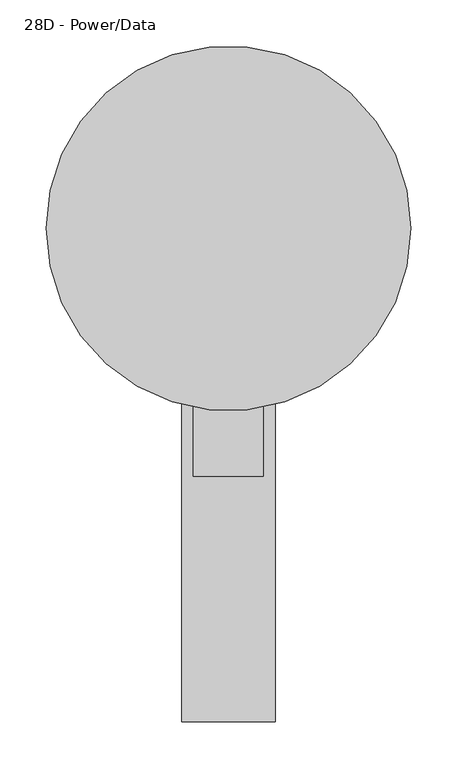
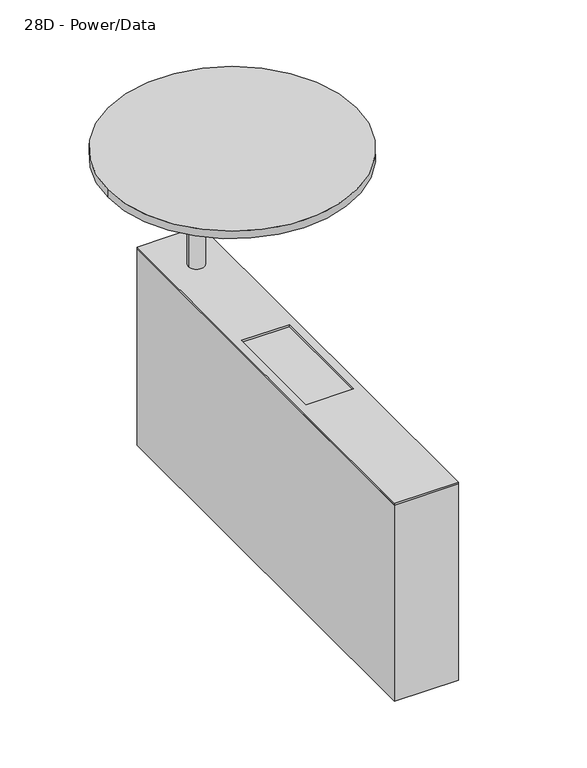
"""IFC4 building model written with IfcOpenShell, lengths in millimetres: furniture geometry, Coalesse_AM_Table_Occasional_Await_Connector : 28D - Power/Data."""

from ifc_helpers import new_model, si_unit, point, frame, frame_2d, origin, place, context, project, spatial, polyline, circle_curve, trimmed, segment, composite_curve, outline, extrude, source, transform, mapped, element, save
from ifc_brep_helpers import plane_surface, cylinder_surface, advanced_brep


def furniture_28d_power_data_fb55835c(model_context):
    return source(origin(), model_context, "Body", "SolidModel", [
        extrude(outline(composite_curve([segment(trimmed(circle_curve(frame_2d((-663.917922, 218.9143355)), 198.12), [point((-862.037922, 218.9143355))], [point((-465.797922, 218.9143355))], False, "CARTESIAN"), True, "CONTINUOUS"), segment(trimmed(circle_curve(frame_2d((-663.917922, 218.9143355)), 198.12), [point((-465.797922, 218.9143355))], [point((-862.037922, 218.9143355))], False, "CARTESIAN"), True, "CONTINUOUS")], self_intersect=False)), frame((0.0, 0.0, 631.825), z_axis=(0.0, 0.0, 1.0), x_axis=(1.0, 0.0, 0.0)), (0.0, 0.0, 1.0), 12.7),
        advanced_brep(
        [(-625.817922, 317.8403236, 631.825), (-702.017922, 317.8403236, 631.825), (-663.917922, 317.8403236, 631.825), (-625.817922, 317.8403236, 623.8875), (-702.017922, 317.8403236, 623.8875), (-651.217922, 317.8403236, 623.8875), (-676.617922, 317.8403236, 623.8875), (-651.217922, 317.8403236, 390.525), (-676.617922, 317.8403236, 390.525), (-663.917922, 317.8403236, 390.525)],
        [
            (0, 1, circle_curve(frame((-663.917922, 317.8403236, 631.825), z_axis=(0.0, 0.0, 1.0), x_axis=(-1.0, 0.0, 0.0)), 38.1)),
            (1, 2),
            (2, 0),
            (1, 0, circle_curve(frame((-663.917922, 317.8403236, 631.825), z_axis=(0.0, 0.0, 1.0), x_axis=(-1.0, 0.0, 0.0)), 38.1)),
            (3, 4, circle_curve(frame((-663.917922, 317.8403236, 623.8875), z_axis=(0.0, 0.0, 1.0), x_axis=(-1.0, 0.0, 0.0)), 38.1)),
            (4, 1),
            (0, 3),
            (4, 3, circle_curve(frame((-663.917922, 317.8403236, 623.8875), z_axis=(0.0, 0.0, 1.0), x_axis=(-1.0, 0.0, 0.0)), 38.1)),
            (5, 6, circle_curve(frame((-663.917922, 317.8403236, 623.8875), z_axis=(0.0, 0.0, 1.0), x_axis=(-1.0, 0.0, 0.0)), 12.7)),
            (6, 4),
            (3, 5),
            (6, 5, circle_curve(frame((-663.917922, 317.8403236, 623.8875), z_axis=(0.0, 0.0, 1.0), x_axis=(-1.0, 0.0, 0.0)), 12.7)),
            (7, 8, circle_curve(frame((-663.917922, 317.8403236, 390.525), z_axis=(0.0, 0.0, 1.0), x_axis=(-1.0, 0.0, 0.0)), 12.7)),
            (8, 6),
            (5, 7),
            (8, 7, circle_curve(frame((-663.917922, 317.8403236, 390.525), z_axis=(0.0, 0.0, 1.0), x_axis=(-1.0, 0.0, 0.0)), 12.7)),
            (9, 8),
            (7, 9),
        ],
        [
            plane_surface(frame((-663.917922, 317.8403236, 631.825), z_axis=(0.0, 0.0, 1.0), x_axis=(-1.0, 0.0, 0.0))),
            cylinder_surface(frame((-663.917922, 317.8403236, 631.825), z_axis=(0.0, 0.0, -1.0), x_axis=(-1.0, 0.0, 0.0)), 38.1),
            plane_surface(frame((-663.917922, 317.8403236, 623.8875), z_axis=(0.0, 0.0, -1.0), x_axis=(-1.0, 0.0, 0.0))),
            cylinder_surface(frame((-663.917922, 317.8403236, 631.825), z_axis=(0.0, 0.0, -1.0), x_axis=(-1.0, 0.0, 0.0)), 12.7),
            plane_surface(frame((-663.917922, 317.8403236, 390.525), z_axis=(0.0, 0.0, -1.0), x_axis=(-1.0, 0.0, 0.0))),
        ],
        [
            (0, [[1, 2, 3]]),
            (0, [[4, -3, -2]]),
            (1, [[5, 6, -1, 7]]),
            (1, [[8, -7, -4, -6]]),
            (2, [[9, 10, -5, 11]]),
            (2, [[12, -11, -8, -10]]),
            (3, [[13, 14, -9, 15]]),
            (3, [[16, -15, -12, -14]]),
            (4, [[17, -13, 18]]),
            (4, [[-18, -16, -17]]),
        ],
    ),
        extrude(outline(polyline([(-613.117922, 394.0403236), (-613.117922, -317.1596764), (-714.717922, -317.1596764), (-714.717922, 394.0403236), (-613.117922, 394.0403236)]), holes=[polyline([(-625.817922, 127.3403236), (-702.017922, 127.3403236), (-702.017922, -50.4596764), (-625.817922, -50.4596764), (-625.817922, 127.3403236)])]), frame((0.0, 0.0, 387.35), z_axis=(0.0, 0.0, 1.0), x_axis=(1.0, 0.0, 0.0)), (0.0, 0.0, 1.0), 3.175),
        extrude(outline(polyline([(-613.117922, 394.0403236), (-613.117922, -317.1596764), (-714.717922, -317.1596764), (-714.717922, 394.0403236), (-613.117922, 394.0403236)])), frame((0.0, 0.0, 57.15), z_axis=(0.0, 0.0, 1.0), x_axis=(1.0, 0.0, 0.0)), (0.0, 0.0, 1.0), 330.2),
    ])


if __name__ == "__main__":
    model = new_model("IFC4")
    model_context = context("Model", 3, world=origin())
    ifc_project = project(units=[si_unit("LENGTHUNIT", "METRE", prefix="MILLI")], contexts=[model_context])
    site = spatial("IfcSite", under=ifc_project)
    building = spatial("IfcBuilding", under=site)
    placement = place(None, origin())
    furniture_28d_power_data_shape = furniture_28d_power_data_fb55835c(model_context)
    element("IfcFurniture", 1, ObjectType="Coalesse_AM_Table_Occasional_Await_Connector : 28D - Power/Data", at=placement, inside=building, context=model_context, shape_type="MappedRepresentation", body=[
        mapped(furniture_28d_power_data_shape, transform((0.0, 0.0, 0.0), x_axis=(1.0, 0.0, 0.0), y_axis=(0.0, 1.0, 0.0), z_axis=(0.0, 0.0, 1.0))),
    ])
    save(model, "model.ifc")
